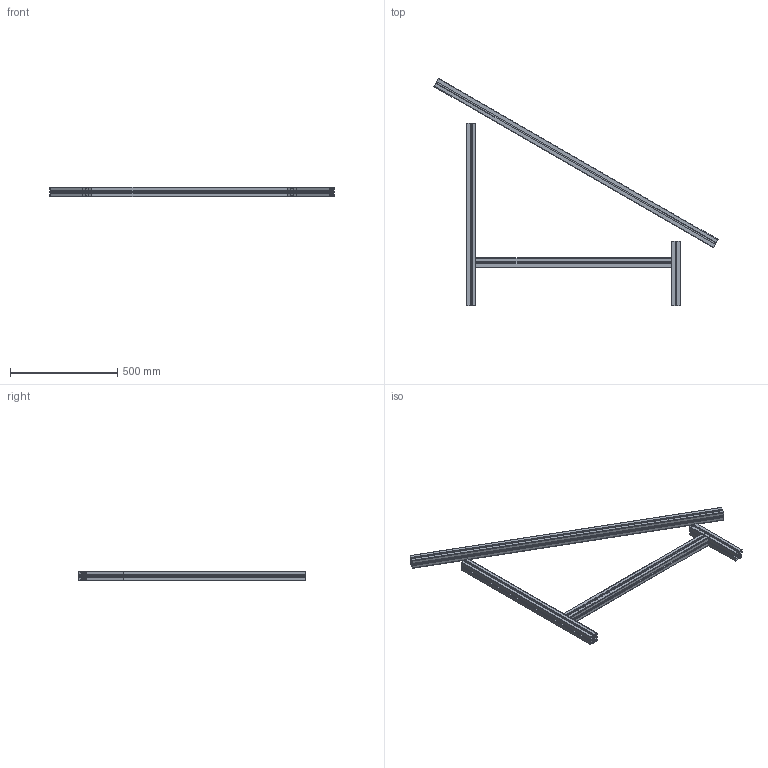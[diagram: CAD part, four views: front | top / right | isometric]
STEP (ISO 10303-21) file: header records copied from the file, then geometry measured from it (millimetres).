
FILE_DESCRIPTION (( 'STEP AP203' ), '1' );
FILE_NAME ('084.106.311.STEP', '2013-01-24T08:18:09', ( 'Alusic' ), ( 'Alusic' ), 'SwSTEP 2.0', 'SolidWorks 2011', '' );
FILE_SCHEMA (( 'CONFIG_CONTROL_DESIGN' ));
Length unit declared in the file: millimetre
Products named in the file (1): 084.106.311
Bounding box: 1321.54 x 1058.79 x 45 mm (x, y, z)
Volume: 1519929.4 mm3; surface area: 2186002.9 mm2
Topology: 4 solids, 4 shells, 616 faces, 1806 edges, 1196 vertices
Faces by surface type: plane 334, cylinder 282
Entity records: 20743 total; most frequent: CARTESIAN_POINT 3897, ORIENTED_EDGE 3612, DIRECTION 3480, EDGE_CURVE 1806, VECTOR 1250, LINE 1250, VERTEX_POINT 1196, AXIS2_PLACEMENT_3D 1115
